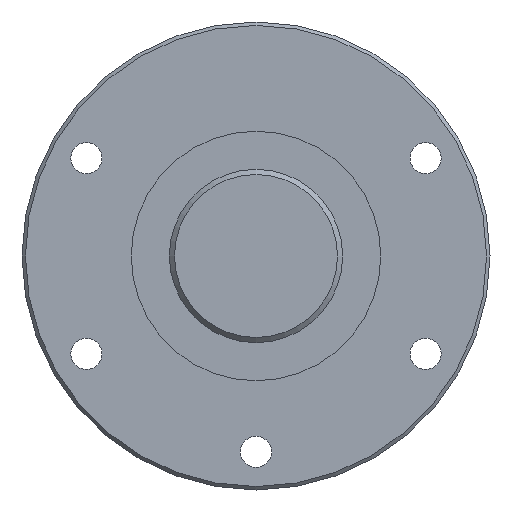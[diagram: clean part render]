
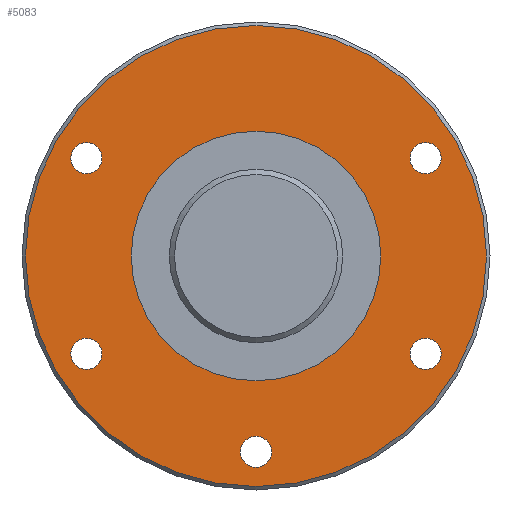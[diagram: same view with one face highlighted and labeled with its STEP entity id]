
A CAD part, left-side view. The second image highlights one B-rep face of the part: STEP entity #5083.
In plain terms, the highlighted planar face has unit normal (-1, 0, 0).
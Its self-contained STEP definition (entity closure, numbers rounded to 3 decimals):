
#1986=ORIENTED_EDGE('',*,*,#3276,.T.);
#1987=ORIENTED_EDGE('',*,*,#3277,.T.);
#1988=ORIENTED_EDGE('',*,*,#3278,.T.);
#1989=ORIENTED_EDGE('',*,*,#3279,.T.);
#1990=ORIENTED_EDGE('',*,*,#3280,.T.);
#1991=ORIENTED_EDGE('',*,*,#3281,.T.);
#1992=ORIENTED_EDGE('',*,*,#3282,.F.);
#3276=EDGE_CURVE('',#3903,#3903,#4054,.T.);
#3277=EDGE_CURVE('',#3904,#3904,#4055,.T.);
#3278=EDGE_CURVE('',#3905,#3905,#4056,.T.);
#3279=EDGE_CURVE('',#3906,#3906,#4057,.T.);
#3280=EDGE_CURVE('',#3907,#3907,#4058,.T.);
#3281=EDGE_CURVE('',#3908,#3908,#4059,.T.);
#3282=EDGE_CURVE('',#3909,#3909,#4060,.T.);
#3903=VERTEX_POINT('',#8242);
#3904=VERTEX_POINT('',#8244);
#3905=VERTEX_POINT('',#8246);
#3906=VERTEX_POINT('',#8248);
#3907=VERTEX_POINT('',#8250);
#3908=VERTEX_POINT('',#8252);
#3909=VERTEX_POINT('',#8254);
#4054=CIRCLE('',#5417,36.);
#4055=CIRCLE('',#5418,4.5);
#4056=CIRCLE('',#5419,4.5);
#4057=CIRCLE('',#5420,4.5);
#4058=CIRCLE('',#5421,4.5);
#4059=CIRCLE('',#5422,4.5);
#4060=CIRCLE('',#5423,66.5);
#4253=EDGE_LOOP('',(#1986));
#4254=EDGE_LOOP('',(#1987));
#4255=EDGE_LOOP('',(#1988));
#4256=EDGE_LOOP('',(#1989));
#4257=EDGE_LOOP('',(#1990));
#4258=EDGE_LOOP('',(#1991));
#4259=EDGE_LOOP('',(#1992));
#4575=FACE_BOUND('',#4253,.T.);
#4576=FACE_BOUND('',#4254,.T.);
#4577=FACE_BOUND('',#4255,.T.);
#4578=FACE_BOUND('',#4256,.T.);
#4579=FACE_BOUND('',#4257,.T.);
#4580=FACE_BOUND('',#4258,.T.);
#4581=FACE_BOUND('',#4259,.T.);
#4873=PLANE('',#5416);
#5083=ADVANCED_FACE('',(#4575,#4576,#4577,#4578,#4579,#4580,#4581),#4873,
 .T.);
#5416=AXIS2_PLACEMENT_3D('',#8240,#6382,#6383);
#5417=AXIS2_PLACEMENT_3D('',#8241,#6384,#6385);
#5418=AXIS2_PLACEMENT_3D('',#8243,#6386,#6387);
#5419=AXIS2_PLACEMENT_3D('',#8245,#6388,#6389);
#5420=AXIS2_PLACEMENT_3D('',#8247,#6390,#6391);
#5421=AXIS2_PLACEMENT_3D('',#8249,#6392,#6393);
#5422=AXIS2_PLACEMENT_3D('',#8251,#6394,#6395);
#5423=AXIS2_PLACEMENT_3D('',#8253,#6396,#6397);
#6382=DIRECTION('',(-1.,0.,0.));
#6383=DIRECTION('',(0.,0.,1.));
#6384=DIRECTION('',(1.,0.,0.));
#6385=DIRECTION('',(0.,0.,-1.));
#6386=DIRECTION('',(1.,0.,0.));
#6387=DIRECTION('',(0.,0.,-1.));
#6388=DIRECTION('',(1.,0.,0.));
#6389=DIRECTION('',(0.,0.,-1.));
#6390=DIRECTION('',(1.,0.,0.));
#6391=DIRECTION('',(0.,0.,-1.));
#6392=DIRECTION('',(1.,0.,0.));
#6393=DIRECTION('',(0.,0.,-1.));
#6394=DIRECTION('',(1.,0.,0.));
#6395=DIRECTION('',(0.,0.,-1.));
#6396=DIRECTION('',(1.,0.,0.));
#6397=DIRECTION('',(0.,0.,-1.));
#8240=CARTESIAN_POINT('',(0.,66.5,0.));
#8241=CARTESIAN_POINT('',(0.,0.,0.));
#8242=CARTESIAN_POINT('',(0.,0.,-36.));
#8243=CARTESIAN_POINT('',(0.,-56.5,0.));
#8244=CARTESIAN_POINT('',(0.,-56.5,-4.5));
#8245=CARTESIAN_POINT('',(0.,-28.25,48.93));
#8246=CARTESIAN_POINT('',(0.,-28.25,44.43));
#8247=CARTESIAN_POINT('',(0.,28.25,-48.93));
#8248=CARTESIAN_POINT('',(0.,28.25,-53.43));
#8249=CARTESIAN_POINT('',(0.,-28.25,-48.93));
#8250=CARTESIAN_POINT('',(0.,-28.25,-53.43));
#8251=CARTESIAN_POINT('',(0.,28.25,48.93));
#8252=CARTESIAN_POINT('',(0.,28.25,44.43));
#8253=CARTESIAN_POINT('',(0.,0.,0.));
#8254=CARTESIAN_POINT('',(0.,0.,-66.5));
